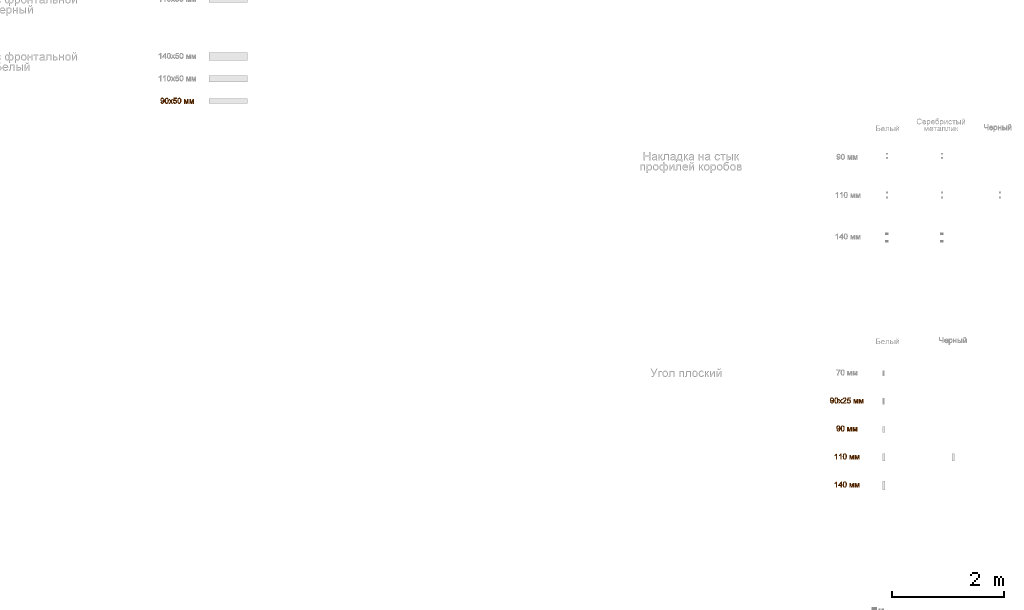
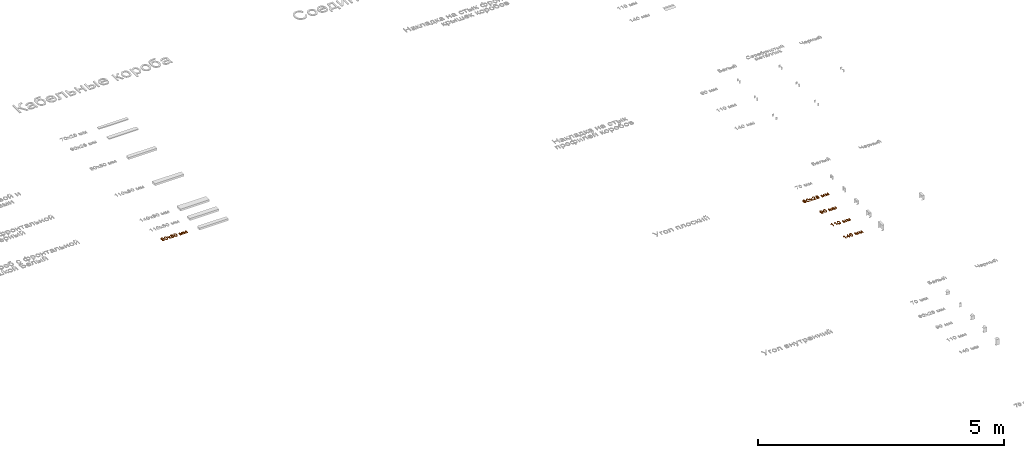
# One storey, part 45 of 87: 5 proxies.
"""IFC2X3 building model written with IfcOpenShell, lengths in millimetres."""

from ifc_helpers import new_model, entity, si_unit, converted_unit, derived_unit, direction, frame, origin, place, context, subcontext, project, spatial, polyline, outline, extrude, element, save


model = new_model("IFC2X3")

# Units and contexts
model_context = context("Model", 3, precision=0.01, world=origin(), true_north=direction((6.12303176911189e-17, 1.0)))
body_context = subcontext(model_context, "Body", "Model", "MODEL_VIEW")
ifc_project = project(units=[si_unit("LENGTHUNIT", "METRE", prefix="MILLI"), si_unit("AREAUNIT", "SQUARE_METRE"), si_unit("VOLUMEUNIT", "CUBIC_METRE"), converted_unit("PLANEANGLEUNIT", "DEGREE", entity("IfcRatioMeasure", 0.0174532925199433), si_unit("PLANEANGLEUNIT", "RADIAN"), dimensions=[0, 0, 0, 0, 0, 0, 0]), si_unit("MASSUNIT", "GRAM", prefix="KILO"), derived_unit("MASSDENSITYUNIT", [(si_unit("MASSUNIT", "GRAM", prefix="KILO"), 1), (si_unit("LENGTHUNIT", "METRE"), -3)]), si_unit("TIMEUNIT", "SECOND"), si_unit("FREQUENCYUNIT", "HERTZ"), si_unit("THERMODYNAMICTEMPERATUREUNIT", "DEGREE_CELSIUS"), derived_unit("THERMALTRANSMITTANCEUNIT", [(si_unit("MASSUNIT", "GRAM", prefix="KILO"), 1), (si_unit("THERMODYNAMICTEMPERATUREUNIT", "KELVIN"), -1), (si_unit("TIMEUNIT", "SECOND"), -3)]), derived_unit("VOLUMETRICFLOWRATEUNIT", [(si_unit("LENGTHUNIT", "METRE"), 3), (si_unit("TIMEUNIT", "SECOND"), -1)]), si_unit("ELECTRICCURRENTUNIT", "AMPERE"), si_unit("ELECTRICVOLTAGEUNIT", "VOLT"), si_unit("POWERUNIT", "WATT"), si_unit("FORCEUNIT", "NEWTON", prefix="KILO"), si_unit("ILLUMINANCEUNIT", "LUX"), si_unit("LUMINOUSFLUXUNIT", "LUMEN"), si_unit("LUMINOUSINTENSITYUNIT", "CANDELA"), derived_unit("USERDEFINED", [(si_unit("MASSUNIT", "GRAM", prefix="KILO"), -1), (si_unit("LENGTHUNIT", "METRE"), -2), (si_unit("TIMEUNIT", "SECOND"), 3), (si_unit("LUMINOUSFLUXUNIT", "LUMEN"), 1)]), derived_unit("LINEARVELOCITYUNIT", [(si_unit("LENGTHUNIT", "METRE"), 1), (si_unit("TIMEUNIT", "SECOND"), -1)]), si_unit("PRESSUREUNIT", "PASCAL"), derived_unit("USERDEFINED", [(si_unit("LENGTHUNIT", "METRE"), -2), (si_unit("MASSUNIT", "GRAM", prefix="KILO"), 1), (si_unit("TIMEUNIT", "SECOND"), -2)])], contexts=[model_context])

# Site, building, storey
site_placement = place(None, origin())
site = spatial("IfcSite", under=ifc_project, at=site_placement, Name="Default", CompositionType="ELEMENT")
building_placement = place(site_placement, origin())
building = spatial("IfcBuilding", under=site, at=building_placement, Name="Наименование здания", CompositionType="ELEMENT")
storey_placement = place(building_placement, origin())
storey = spatial("IfcBuildingStorey", under=building, at=storey_placement, Name="Этаж 01", CompositionType="ELEMENT", Elevation=0.0)

# Proxies
proxy_1_placement = place(storey_placement, origin())
element("IfcBuildingElementProxy", 1, at=proxy_1_placement, inside=storey, Name="Текст модели:100 мм Arial", ObjectType="Текст модели:100 мм Arial", context=body_context, shape_type="SweptSolid", body=[
    extrude(outline(polyline([(5.58296908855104, -31.7859506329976), (17.2387167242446, -31.7859506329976), (26.9216142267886, -28.1739915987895), (34.2072820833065, -21.2554963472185), (38.6713407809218, -11.335887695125), (39.9245387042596, -0.903731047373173), (37.9450282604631, 8.92661895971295), (32.7793953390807, 17.8190246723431), (24.47422582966, 25.4373484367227), (-3.90517077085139, 37.3659164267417), (-32.1440557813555, 40.5619140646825), (-49.7769073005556, 32.5319597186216), (-59.4683269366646, 16.6032994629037), (-60.4499889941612, 4.02951589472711), (-56.401629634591, -7.53444362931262), (-47.8362588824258, -16.8026666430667), (-35.2668867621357, -22.4892406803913), (-21.9841856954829, -23.8222776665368), (-10.3310965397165, -20.283271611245), (-1.40106329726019, -12.8047998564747), (3.71247002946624, -2.31943974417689), (3.73902096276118, 11.9281903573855), (-2.85997612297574, 24.0883984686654), (-0.471643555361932, 23.5260231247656), (13.1334133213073, 18.0099957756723), (22.6158894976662, 11.2224941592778), (27.0079821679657, 2.91452909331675), (26.6924060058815, -7.5239580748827), (20.341007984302, -16.8945474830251), (7.30988926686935, -19.2495752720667), (5.58296908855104, -31.7859506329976)]), holes=[polyline([(-21.7672208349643, 29.1433710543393), (-13.980379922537, 25.5922442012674), (-8.91107638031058, 19.8291378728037), (-7.47464573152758, 4.45415101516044), (-10.9717321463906, -3.43916536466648), (-16.5473789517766, -8.73312215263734), (-23.5758136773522, -11.1761402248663), (-31.4312638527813, -10.5166404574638), (-39.4119601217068, -6.85973803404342), (-44.9206699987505, -0.817312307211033), (-47.5297596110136, 6.83624740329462), (-46.8115950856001, 15.3265517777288), (-43.3781823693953, 22.7799280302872), (-37.7148363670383, 27.7965691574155), (-30.3387761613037, 30.0324064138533), (-21.7672208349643, 29.1433710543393)])]), frame((12120.666226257, -4784.31998894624, 0.0), z_axis=(0.0, 0.0, 1.0), x_axis=(0.258284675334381, -0.966068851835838, 0.0)), (0.0, 0.0, 1.0), 20.0),
    extrude(outline(polyline([(-7.0288431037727, -33.3490673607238), (17.5323805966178, -33.3490673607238), (35.1984171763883, -27.6137612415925), (43.3439841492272, -18.4876517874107), (47.0516941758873, -5.75150665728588), (46.7162020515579, 4.48638208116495), (43.4465778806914, 13.0955287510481), (27.9444305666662, 25.665911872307), (-0.31433837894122, 32.2325535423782), (-24.0296505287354, 32.3678288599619), (-39.4143020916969, 28.0260881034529), (-49.7293680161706, 18.9002174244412), (-54.4436715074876, 4.63998875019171), (-50.867658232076, -14.1301059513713), (-35.4058547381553, -26.7333390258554), (-7.0288431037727, -33.3490673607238)]), holes=[polyline([(-5.77428774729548, -20.8548320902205), (-25.0157644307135, -17.3562860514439), (-36.7257089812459, -11.5717922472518), (-41.0962588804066, -4.7759968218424), (-41.9669219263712, 3.21464792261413), (-39.2244253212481, 11.2791292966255), (-32.865406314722, 17.2229259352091), (-20.969837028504, 20.2947501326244), (-1.61768958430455, 19.7433141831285), (17.8514140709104, 16.2707701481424), (28.7803640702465, 10.7141596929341), (33.5546988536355, 3.61815959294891), (34.5599568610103, -4.47255337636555), (31.9421230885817, -12.1923199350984), (25.8471825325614, -18.1754808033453), (14.0250679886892, -21.402747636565), (-5.77428774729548, -20.8548320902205)])]), frame((12200.6345749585, -4777.21424601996, 0.0), z_axis=(0.0, 0.0, 1.0), x_axis=(0.1018515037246, -0.994799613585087, 0.0)), (0.0, 0.0, 1.0), 20.0),
    extrude(outline(polyline([(-34.530221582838, -38.4265006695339), (-19.422534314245, -38.4265006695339), (-0.341721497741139, -12.0616243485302), (2.47870713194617, -16.1328517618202), (17.8561745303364, -38.4265006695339), (32.9638617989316, -38.4265006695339), (7.40832586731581, -1.34399555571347), (33.944880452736, 35.3461020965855), (18.8371931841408, 35.3461020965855), (4.95577923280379, 16.167187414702), (0.0261604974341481, 9.34910777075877), (-5.66374769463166, 17.6877663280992), (-17.8529044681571, 35.3461020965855), (-32.9605917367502, 35.3461020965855), (-7.6993614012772, -1.34399555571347), (-34.530221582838, -38.4265006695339)])), frame((12273.476231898, -4784.61092229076, 0.0)), (0.0, 0.0, 1.0), 20.0),
    extrude(outline(polyline([(-32.3858783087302, -45.1669477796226), (-32.3858783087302, -57.7239865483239), (33.5385752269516, -57.7239865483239), (32.1896745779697, -49.0664969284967), (24.5622545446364, -35.7369059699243), (8.84143061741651, -21.1810416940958), (-12.8390816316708, -0.260818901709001), (-18.2592096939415, 13.9639515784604), (-13.1456499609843, 25.4786580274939), (0.20846646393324, 30.1752848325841), (14.1266686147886, 25.5890226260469), (19.4119066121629, 12.9093565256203), (31.9689453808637, 14.4789863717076), (28.9247218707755, 26.6252235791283), (22.3426998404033, 35.4973110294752), (12.5662358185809, 40.9235704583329), (-0.0613136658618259, 42.7323236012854), (-12.7808336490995, 40.7212353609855), (-22.5389035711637, 34.6879706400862), (-28.7469122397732, 25.6748617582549), (-30.8162484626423, 14.7242410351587), (-28.5844310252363, 2.81712712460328), (-21.1654774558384, -9.49465698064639), (-3.17604789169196, -26.6992716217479), (11.2694517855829, -38.7780637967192), (16.9348345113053, -45.1669477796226), (-32.3858783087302, -45.1669477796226)])), frame((12346.2571883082, -4765.31343641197, 0.0), z_axis=(0.0, 0.0, -1.0), x_axis=(-1.0, 0.0, 0.0)), (0.0, 0.0, -1.0), 20.0),
    extrude(outline(polyline([(3.81439562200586, -37.2548959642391), (15.7323946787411, -37.2548959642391), (26.1588137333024, -33.0579698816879), (34.2921694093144, -25.0537205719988), (39.3309783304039, -13.6317508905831), (40.2219288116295, 1.43409098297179), (34.3991305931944, 14.6815107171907), (25.5350217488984, 23.1481891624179), (13.9054384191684, 28.2770976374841), (0.912111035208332, 29.4702838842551), (-10.7159258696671, 25.7768606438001), (-19.742707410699, 18.0989984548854), (-24.9322687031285, 7.33886785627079), (-25.5937300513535, -2.21124798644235), (-22.6370240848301, -12.2793380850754), (-47.9924930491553, 0.0204883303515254), (-38.0977082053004, 37.2324069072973), (-50.2330599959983, 40.459241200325), (-62.7370428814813, -6.56524698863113), (-15.5021967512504, -30.4943712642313), (-10.7584434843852, -18.7623737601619), (-14.4216298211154, -10.4922324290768), (-13.6981616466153, 0.72266773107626), (-9.98738154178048, 9.35727561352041), (-4.3255337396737, 14.6878856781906), (11.4370636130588, 15.9400687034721), (19.7481682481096, 12.2772427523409), (25.4355726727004, 6.40632241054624), (28.066514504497, -1.27212018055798), (27.2082313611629, -10.3575128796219), (19.6530635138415, -21.9256319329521), (5.5243109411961, -24.7161898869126), (3.81439562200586, -37.2548959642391)])), frame((12426.2237167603, -4783.09386891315, 0.0), z_axis=(0.0, 0.0, 1.0), x_axis=(0.256974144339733, -0.966418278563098, 0.0)), (0.0, 0.0, 1.0), 20.0),
    extrude(outline(polyline([(-40.58398707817, -38.4502715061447), (33.1886156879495, -38.4502715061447), (33.1886156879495, -25.8932327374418), (-29.0570178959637, -25.8932327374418), (33.1886156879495, -8.6273044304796), (33.1886156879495, 7.85380895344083), (-26.2120637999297, 25.9045521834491), (33.1886156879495, 25.9045521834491), (33.1886156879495, 38.4615909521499), (-40.58398707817, 38.4615909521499), (-40.58398707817, 17.7620973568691), (18.4733358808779, -0.190544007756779), (-40.58398707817, -16.8433356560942), (-40.58398707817, -38.4502715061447)])), frame((12548.9422451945, -4789.84880727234, 0.0), z_axis=(0.0, 0.0, 1.0), x_axis=(0.0, -1.0, 0.0)), (0.0, 0.0, 1.0), 20.0),
    extrude(outline(polyline([(-40.58398707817, -38.4502715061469), (33.1886156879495, -38.4502715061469), (33.1886156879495, -25.8932327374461), (-29.0570178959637, -25.8932327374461), (33.1886156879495, -8.62730443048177), (33.1886156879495, 7.85380895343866), (-26.2120637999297, 25.904552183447), (33.1886156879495, 25.904552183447), (33.1886156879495, 38.4615909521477), (-40.58398707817, 38.4615909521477), (-40.58398707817, 17.762097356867), (18.4733358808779, -0.19054400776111), (-40.58398707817, -16.8433356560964), (-40.58398707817, -38.4502715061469)])), frame((12644.6896658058, -4789.84880727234, 0.0), z_axis=(0.0, 0.0, 1.0), x_axis=(0.0, -1.0, 0.0)), (0.0, 0.0, 1.0), 20.0),
])
proxy_2_placement = place(storey_placement, origin())
element("IfcBuildingElementProxy", 2, at=proxy_2_placement, inside=storey, Name="Текст модели:100 мм Arial", ObjectType="Текст модели:100 мм Arial", context=body_context, shape_type="SweptSolid", body=[
    extrude(outline(polyline([(5.58296908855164, -31.7859506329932), (17.2387167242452, -31.7859506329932), (26.9216142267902, -28.1739915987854), (34.2072820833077, -21.2554963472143), (38.6713407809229, -11.3358876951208), (39.9245387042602, -0.903731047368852), (37.9450282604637, 8.92661895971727), (32.7793953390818, 17.8190246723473), (24.4742258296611, 25.4373484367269), (-3.90517077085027, 37.3659164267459), (-32.1440557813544, 40.5619140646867), (-49.776907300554, 32.5319597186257), (-59.4683269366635, 16.6032994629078), (-60.4499889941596, 4.02951589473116), (-56.4016296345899, -7.53444362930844), (-47.8362588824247, -16.8026666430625), (-35.2668867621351, -22.4892406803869), (-21.9841856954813, -23.8222776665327), (-10.3310965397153, -20.2832716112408), (-1.40106329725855, -12.8047998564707), (3.71247002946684, -2.31943974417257), (3.7390209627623, 11.9281903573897), (-2.85997612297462, 24.0883984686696), (-0.471643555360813, 23.5260231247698), (13.1334133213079, 18.0099957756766), (22.6158894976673, 11.222494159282), (27.0079821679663, 2.91452909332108), (26.6924060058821, -7.52395807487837), (20.3410079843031, -16.8945474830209), (7.30988926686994, -19.2495752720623), (5.58296908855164, -31.7859506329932)]), holes=[polyline([(-21.7672208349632, 29.1433710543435), (-13.9803799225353, 25.5922442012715), (-8.91107638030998, 19.8291378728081), (-7.47464573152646, 4.45415101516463), (-10.9717321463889, -3.43916536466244), (-16.547378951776, -8.73312215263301), (-23.5758136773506, -11.1761402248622), (-31.4312638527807, -10.5166404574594), (-39.4119601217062, -6.8597380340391), (-44.9206699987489, -0.817312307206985), (-47.5297596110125, 6.83624740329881), (-46.8115950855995, 15.3265517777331), (-43.3781823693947, 22.7799280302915), (-37.7148363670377, 27.7965691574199), (-30.338776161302, 30.0324064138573), (-21.7672208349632, 29.1433710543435)])]), frame((12232.8947602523, -5284.31998894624, 0.0), z_axis=(0.0, 0.0, 1.0), x_axis=(0.258284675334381, -0.966068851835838, 0.0)), (0.0, 0.0, 1.0), 20.0),
    extrude(outline(polyline([(-7.02884310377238, -33.349067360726), (17.5323805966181, -33.349067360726), (35.1984171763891, -27.6137612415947), (43.3439841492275, -18.4876517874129), (47.0516941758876, -5.75150665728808), (46.7162020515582, 4.48638208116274), (43.4465778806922, 13.0955287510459), (27.9444305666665, 25.6659118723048), (-0.314338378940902, 32.232553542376), (-24.0296505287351, 32.3678288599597), (-39.4143020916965, 28.0260881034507), (-49.7293680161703, 18.900217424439), (-54.4436715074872, 4.6399887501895), (-50.8676582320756, -14.1301059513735), (-35.4058547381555, -26.7333390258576), (-7.02884310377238, -33.349067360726)]), holes=[polyline([(-5.7742877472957, -20.8548320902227), (-25.0157644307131, -17.3562860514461), (-36.725708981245, -11.5717922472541), (-41.0962588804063, -4.77599682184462), (-41.9669219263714, 3.21464792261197), (-39.2244253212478, 11.2791292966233), (-32.8654063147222, 17.222925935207), (-20.9698370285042, 20.2947501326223), (-1.61768958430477, 19.7433141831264), (17.8514140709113, 16.2707701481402), (28.7803640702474, 10.7141596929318), (33.5546988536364, 3.61815959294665), (34.5599568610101, -4.4725533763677), (31.9421230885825, -12.1923199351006), (25.8471825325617, -18.1754808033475), (14.0250679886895, -21.4027476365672), (-5.7742877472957, -20.8548320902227)])]), frame((12312.8631089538, -5277.21424601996, 0.0), z_axis=(0.0, 0.0, 1.0), x_axis=(0.1018515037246, -0.994799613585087, 0.0)), (0.0, 0.0, 1.0), 20.0),
    extrude(outline(polyline([(-40.5839870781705, -38.4502715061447), (33.1886156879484, -38.4502715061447), (33.1886156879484, -25.893232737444), (-29.0570178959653, -25.893232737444), (33.1886156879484, -8.6273044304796), (33.1886156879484, 7.85380895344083), (-26.2120637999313, 25.9045521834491), (33.1886156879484, 25.9045521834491), (33.1886156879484, 38.4615909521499), (-40.5839870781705, 38.4615909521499), (-40.5839870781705, 17.7620973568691), (18.4733358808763, -0.190544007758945), (-40.5839870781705, -16.8433356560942), (-40.5839870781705, -38.4502715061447)])), frame((12436.7137111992, -5289.84880727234, 0.0), z_axis=(0.0, 0.0, 1.0), x_axis=(0.0, -1.0, 0.0)), (0.0, 0.0, 1.0), 20.0),
    extrude(outline(polyline([(-40.5839870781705, -38.4502715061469), (33.1886156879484, -38.4502715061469), (33.1886156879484, -25.8932327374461), (-29.0570178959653, -25.8932327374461), (33.1886156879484, -8.62730443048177), (33.1886156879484, 7.85380895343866), (-26.2120637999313, 25.9045521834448), (33.1886156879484, 25.9045521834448), (33.1886156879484, 38.4615909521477), (-40.5839870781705, 38.4615909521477), (-40.5839870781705, 17.762097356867), (18.4733358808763, -0.19054400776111), (-40.5839870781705, -16.8433356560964), (-40.5839870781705, -38.4502715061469)])), frame((12532.4611318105, -5289.84880727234, 0.0), z_axis=(0.0, 0.0, 1.0), x_axis=(0.0, -1.0, 0.0)), (0.0, 0.0, 1.0), 20.0),
])
proxy_3_placement = place(storey_placement, origin())
element("IfcBuildingElementProxy", 3, at=proxy_3_placement, inside=storey, Name="Текст модели:100 мм Arial", ObjectType="Текст модели:100 мм Arial", context=body_context, shape_type="SweptSolid", body=[
    extrude(outline(polyline([(-63.8793021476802, -16.918484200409), (36.5770080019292, -16.918484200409), (36.5770080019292, -8.825080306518), (23.2106288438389, 2.34626961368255), (11.4629304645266, 20.7526321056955), (-0.407395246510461, 20.7526321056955), (5.93243780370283, 7.53340574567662), (14.4059864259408, -4.36144543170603), (-63.8793021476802, -4.36144543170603), (-63.8793021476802, -16.918484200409)])), frame((12193.7741888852, -5759.15812081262, 0.0), z_axis=(0.0, 0.0, 1.0), x_axis=(0.0, 1.0, 0.0)), (0.0, 0.0, 1.0), 20.0),
    extrude(outline(polyline([(-63.8793021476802, -16.918484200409), (36.5770080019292, -16.918484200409), (36.5770080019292, -8.825080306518), (23.2106288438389, 2.34626961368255), (11.4629304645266, 20.7526321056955), (-0.407395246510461, 20.7526321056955), (5.93243780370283, 7.53340574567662), (14.4059864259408, -4.36144543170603), (-63.8793021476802, -4.36144543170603), (-63.8793021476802, -16.918484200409)])), frame((12270.6860513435, -5759.15812081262, 0.0), z_axis=(0.0, 0.0, 1.0), x_axis=(0.0, 1.0, 0.0)), (0.0, 0.0, 1.0), 20.0),
    extrude(outline(polyline([(-7.02884310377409, -33.3490673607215), (17.5323805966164, -33.3490673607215), (35.1984171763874, -27.6137612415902), (43.3439841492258, -18.4876517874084), (47.0516941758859, -5.75150665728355), (46.7162020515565, 4.48638208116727), (43.4465778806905, 13.0955287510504), (27.9444305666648, 25.6659118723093), (-0.314338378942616, 32.2325535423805), (-24.0296505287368, 32.3678288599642), (-39.4143020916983, 28.0260881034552), (-49.729368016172, 18.9002174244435), (-54.443671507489, 4.63998875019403), (-50.8676582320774, -14.130105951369), (-35.4058547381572, -26.733339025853), (-7.02884310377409, -33.3490673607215)]), holes=[polyline([(-5.77428774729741, -20.8548320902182), (-25.0157644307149, -17.3562860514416), (-36.7257089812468, -11.5717922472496), (-41.096258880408, -4.77599682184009), (-41.9669219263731, 3.2146479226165), (-39.2244253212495, 11.2791292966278), (-32.8654063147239, 17.2229259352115), (-20.969837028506, 20.2947501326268), (-1.61768958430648, 19.7433141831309), (17.8514140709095, 16.2707701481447), (28.7803640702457, 10.7141596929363), (33.5546988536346, 3.61815959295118), (34.5599568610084, -4.47255337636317), (31.9421230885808, -12.1923199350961), (25.84718253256, -18.1754808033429), (14.0250679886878, -21.4027476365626), (-5.77428774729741, -20.8548320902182)])]), frame((12351.319040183, -5777.21424601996, 0.0), z_axis=(0.0, 0.0, 1.0), x_axis=(0.1018515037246, -0.994799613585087, 0.0)), (0.0, 0.0, 1.0), 20.0),
    extrude(outline(polyline([(-40.5839870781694, -38.4502715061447), (33.1886156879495, -38.4502715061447), (33.1886156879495, -25.893232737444), (-29.0570178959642, -25.893232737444), (33.1886156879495, -8.6273044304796), (33.1886156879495, 7.85380895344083), (-26.2120637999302, 25.9045521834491), (33.1886156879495, 25.9045521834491), (33.1886156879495, 38.4615909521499), (-40.5839870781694, 38.4615909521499), (-40.5839870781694, 17.7620973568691), (18.4733358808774, -0.190544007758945), (-40.5839870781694, -16.8433356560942), (-40.5839870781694, -38.4502715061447)])), frame((12475.1696424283, -5789.84880727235, 0.0), z_axis=(0.0, 0.0, 1.0), x_axis=(0.0, -1.0, 0.0)), (0.0, 0.0, 1.0), 20.0),
    extrude(outline(polyline([(-40.5839870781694, -38.4502715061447), (33.1886156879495, -38.4502715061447), (33.1886156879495, -25.893232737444), (-29.0570178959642, -25.893232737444), (33.1886156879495, -8.6273044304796), (33.1886156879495, 7.85380895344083), (-26.2120637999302, 25.9045521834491), (33.1886156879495, 25.9045521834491), (33.1886156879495, 38.4615909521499), (-40.5839870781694, 38.4615909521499), (-40.5839870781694, 17.7620973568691), (18.4733358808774, -0.190544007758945), (-40.5839870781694, -16.8433356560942), (-40.5839870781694, -38.4502715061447)])), frame((12570.9170630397, -5789.84880727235, 0.0), z_axis=(0.0, 0.0, 1.0), x_axis=(0.0, -1.0, 0.0)), (0.0, 0.0, 1.0), 20.0),
])
proxy_4_placement = place(storey_placement, origin())
element("IfcBuildingElementProxy", 4, at=proxy_4_placement, inside=storey, Name="Текст модели:100 мм Arial", ObjectType="Текст модели:100 мм Arial", context=body_context, shape_type="SweptSolid", body=[
    extrude(outline(polyline([(-63.8793021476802, -16.918484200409), (36.5770080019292, -16.918484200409), (36.5770080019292, -8.825080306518), (23.2106288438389, 2.34626961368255), (11.4629304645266, 20.7526321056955), (-0.407395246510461, 20.7526321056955), (5.93243780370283, 7.53340574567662), (14.4059864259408, -4.36144543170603), (-63.8793021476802, -4.36144543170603), (-63.8793021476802, -16.918484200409)])), frame((12193.7741888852, -6259.15812081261, 0.0), z_axis=(0.0, 0.0, 1.0), x_axis=(0.0, 1.0, 0.0)), (0.0, 0.0, 1.0), 20.0),
    extrude(outline(polyline([(-1.14154897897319, -36.3868737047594), (11.4154897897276, -36.3868737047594), (11.4154897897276, -12.8424260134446), (23.9725285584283, -12.8424260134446), (23.9725285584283, -0.285387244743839), (11.4154897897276, -0.285387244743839), (11.4154897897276, 62.4998065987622), (1.99771071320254, 62.4998065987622), (-46.6608145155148, -0.285387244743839), (-46.6608145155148, -12.8424260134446), (-1.14154897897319, -12.8424260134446), (-1.14154897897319, -36.3868737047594)]), holes=[polyline([(-1.14154897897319, -0.285387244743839), (-31.20977071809, -0.285387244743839), (-1.14154897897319, 38.5139005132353), (-1.14154897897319, -0.285387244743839)])]), frame((12282.4675651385, -6286.65054925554, 0.0)), (0.0, 0.0, 1.0), 20.0),
    extrude(outline(polyline([(-7.02884310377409, -33.3490673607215), (17.5323805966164, -33.3490673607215), (35.1984171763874, -27.6137612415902), (43.3439841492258, -18.4876517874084), (47.0516941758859, -5.75150665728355), (46.7162020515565, 4.48638208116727), (43.4465778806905, 13.0955287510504), (27.9444305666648, 25.6659118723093), (-0.314338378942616, 32.2325535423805), (-24.0296505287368, 32.3678288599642), (-39.4143020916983, 28.0260881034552), (-49.729368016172, 18.9002174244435), (-54.443671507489, 4.63998875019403), (-50.8676582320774, -14.130105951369), (-35.4058547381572, -26.733339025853), (-7.02884310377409, -33.3490673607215)]), holes=[polyline([(-5.77428774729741, -20.8548320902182), (-25.0157644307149, -17.3562860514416), (-36.7257089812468, -11.5717922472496), (-41.096258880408, -4.77599682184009), (-41.9669219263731, 3.2146479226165), (-39.2244253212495, 11.2791292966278), (-32.8654063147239, 17.2229259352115), (-20.969837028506, 20.2947501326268), (-1.61768958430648, 19.7433141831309), (17.8514140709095, 16.2707701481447), (28.7803640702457, 10.7141596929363), (33.5546988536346, 3.61815959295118), (34.5599568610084, -4.47255337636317), (31.9421230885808, -12.1923199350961), (25.84718253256, -18.1754808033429), (14.0250679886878, -21.4027476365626), (-5.77428774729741, -20.8548320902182)])]), frame((12351.319040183, -6277.21424601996, 0.0), z_axis=(0.0, 0.0, 1.0), x_axis=(0.1018515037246, -0.994799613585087, 0.0)), (0.0, 0.0, 1.0), 20.0),
    extrude(outline(polyline([(-40.5839870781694, -38.4502715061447), (33.1886156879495, -38.4502715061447), (33.1886156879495, -25.893232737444), (-29.0570178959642, -25.893232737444), (33.1886156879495, -8.6273044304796), (33.1886156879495, 7.85380895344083), (-26.2120637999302, 25.9045521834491), (33.1886156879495, 25.9045521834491), (33.1886156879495, 38.4615909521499), (-40.5839870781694, 38.4615909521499), (-40.5839870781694, 17.7620973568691), (18.4733358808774, -0.190544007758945), (-40.5839870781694, -16.8433356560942), (-40.5839870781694, -38.4502715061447)])), frame((12475.1696424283, -6289.84880727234, 0.0), z_axis=(0.0, 0.0, 1.0), x_axis=(0.0, -1.0, 0.0)), (0.0, 0.0, 1.0), 20.0),
    extrude(outline(polyline([(-40.5839870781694, -38.4502715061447), (33.1886156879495, -38.4502715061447), (33.1886156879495, -25.893232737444), (-29.0570178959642, -25.893232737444), (33.1886156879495, -8.6273044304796), (33.1886156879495, 7.85380895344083), (-26.2120637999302, 25.9045521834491), (33.1886156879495, 25.9045521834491), (33.1886156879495, 38.4615909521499), (-40.5839870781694, 38.4615909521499), (-40.5839870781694, 17.7620973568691), (18.4733358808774, -0.190544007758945), (-40.5839870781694, -16.8433356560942), (-40.5839870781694, -38.4502715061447)])), frame((12570.9170630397, -6289.84880727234, 0.0), z_axis=(0.0, 0.0, 1.0), x_axis=(0.0, -1.0, 0.0)), (0.0, 0.0, 1.0), 20.0),
])
proxy_5_placement = place(storey_placement, origin())
element("IfcBuildingElementProxy", 5, at=proxy_5_placement, inside=storey, Name="Текст модели:100 мм Arial", ObjectType="Текст модели:100 мм Arial", context=body_context, shape_type="SweptSolid", body=[
    extrude(outline(polyline([(5.58296908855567, -31.7859506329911), (17.2387167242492, -31.7859506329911), (26.9216142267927, -28.1739915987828), (34.2072820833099, -21.2554963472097), (38.6713407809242, -11.3358876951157), (39.924538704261, -0.903731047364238), (37.9450282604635, 8.92661895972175), (32.7793953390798, 17.8190246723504), (24.4742258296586, 25.43734843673), (-3.90517077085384, 37.3659164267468), (-32.1440557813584, 40.5619140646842), (-49.7769073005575, 32.5319597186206), (-59.4683269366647, 16.6032994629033), (-60.4499889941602, 4.02951589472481), (-56.4016296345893, -7.53444362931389), (-47.8362588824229, -16.8026666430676), (-35.2668867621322, -22.4892406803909), (-21.9841856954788, -23.8222776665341), (-10.3310965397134, -20.2832716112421), (-1.40106329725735, -12.8047998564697), (3.71247002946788, -2.31943974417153), (3.73902096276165, 11.9281903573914), (-2.85997612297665, 24.0883984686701), (-0.47164355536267, 23.5260231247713), (13.1334133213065, 18.009995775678), (22.6158894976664, 11.2224941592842), (27.0079821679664, 2.9145290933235), (26.6924060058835, -7.52395807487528), (20.3410079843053, -16.8945474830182), (7.30988926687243, -19.2495752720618), (5.58296908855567, -31.7859506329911)]), holes=[polyline([(-21.7672208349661, 29.1433710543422), (-13.980379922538, 25.592244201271), (-8.91107638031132, 19.8291378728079), (-7.47464573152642, 4.45415101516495), (-10.9717321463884, -3.43916536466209), (-16.5473789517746, -8.7331221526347), (-23.5758136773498, -11.1761402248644), (-31.431263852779, -10.5166404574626), (-39.411960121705, -6.85973803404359), (-44.920669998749, -0.817312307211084), (-47.5297596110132, 6.83624740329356), (-46.8115950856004, 15.3265517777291), (-43.3781823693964, 22.7799280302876), (-37.71483636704, 27.7965691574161), (-30.3387761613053, 30.0324064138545), (-21.7672208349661, 29.1433710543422)])]), frame((169.068549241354, 565.454857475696, 0.0), z_axis=(0.0, 0.0, 1.0), x_axis=(0.258284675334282, -0.966068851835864, 0.0)), (0.0, 0.0, 1.0), 20.0),
    extrude(outline(polyline([(-7.02884310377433, -33.3490673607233), (17.5323805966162, -33.3490673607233), (35.1984171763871, -27.6137612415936), (43.343984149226, -18.4876517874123), (47.0516941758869, -5.75150665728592), (46.7162020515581, 4.48638208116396), (43.4465778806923, 13.0955287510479), (27.9444305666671, 25.6659118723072), (-0.314338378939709, 32.23255354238), (-24.0296505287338, 32.3678288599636), (-39.4143020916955, 28.026088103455), (-49.72936801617, 18.9002174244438), (-54.4436715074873, 4.63998875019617), (-50.8676582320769, -14.1301059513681), (-35.4058547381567, -26.7333390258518), (-7.02884310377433, -33.3490673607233)]), holes=[polyline([(-5.77428774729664, -20.8548320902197), (-25.0157644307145, -17.3562860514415), (-36.7257089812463, -11.5717922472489), (-41.0962588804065, -4.77599682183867), (-41.9669219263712, 3.2146479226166), (-39.2244253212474, 11.2791292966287), (-32.8654063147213, 17.2229259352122), (-20.9698370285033, 20.2947501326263), (-1.61768958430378, 19.74331418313), (17.8514140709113, 16.2707701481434), (28.780364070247, 10.7141596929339), (33.5546988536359, 3.61815959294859), (34.5599568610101, -4.47255337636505), (31.9421230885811, -12.1923199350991), (25.8471825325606, -18.1754808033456), (14.0250679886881, -21.4027476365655), (-5.77428774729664, -20.8548320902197)])]), frame((249.036897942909, 572.560600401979, 0.0), z_axis=(0.0, 0.0, 1.0), x_axis=(0.101851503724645, -0.994799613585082, 0.0)), (0.0, 0.0, 1.0), 20.0),
    extrude(outline(polyline([(-34.5302215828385, -38.4265006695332), (-19.4225343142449, -38.4265006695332), (-0.341721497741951, -12.0616243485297), (2.47870713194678, -16.1328517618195), (17.8561745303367, -38.4265006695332), (32.9638617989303, -38.4265006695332), (7.40832586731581, -1.34399555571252), (33.9448804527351, 35.3461020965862), (18.8371931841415, 35.3461020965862), (4.95577923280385, 16.1671874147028), (0.0261604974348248, 9.34910777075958), (-5.66374769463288, 17.6877663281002), (-17.8529044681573, 35.3461020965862), (-32.9605917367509, 35.3461020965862), (-7.69936140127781, -1.34399555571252), (-34.5302215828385, -38.4265006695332)])), frame((321.878554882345, 565.163924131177, 0.0)), (0.0, 0.0, 1.0), 20.0),
    extrude(outline(polyline([(3.81439562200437, -37.2548959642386), (15.7323946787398, -37.2548959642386), (26.1588137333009, -33.0579698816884), (34.2921694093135, -25.0537205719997), (39.3309783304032, -13.6317508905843), (40.2219288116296, 1.43409098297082), (34.399130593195, 14.6815107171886), (25.5350217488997, 23.1481891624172), (13.9054384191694, 28.2770976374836), (0.912111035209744, 29.4702838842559), (-10.7159258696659, 25.7768606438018), (-19.7427074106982, 18.0989984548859), (-24.9322687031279, 7.33886785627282), (-25.5937300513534, -2.21124798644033), (-22.6370240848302, -12.2793380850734), (-47.9924930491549, 0.0204883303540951), (-38.0977082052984, 37.2324069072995), (-50.2330599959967, 40.4592412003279), (-62.7370428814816, -6.5652469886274), (-15.5021967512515, -30.4943712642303), (-10.7584434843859, -18.7623737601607), (-14.4216298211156, -10.4922324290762), (-13.6981616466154, 0.722667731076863), (-9.98738154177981, 9.35727561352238), (-4.32553373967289, 14.6878856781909), (11.4370636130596, 15.9400687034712), (19.7481682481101, 12.27724275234), (25.4355726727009, 6.40632241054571), (28.0665145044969, -1.27212018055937), (27.2082313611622, -10.3575128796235), (19.6530635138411, -21.9256319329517), (5.52431094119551, -24.7161898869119), (3.81439562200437, -37.2548959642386)])), frame((397.714177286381, 566.680977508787, 0.0), z_axis=(0.0, 0.0, 1.0), x_axis=(0.256974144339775, -0.966418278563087, 0.0)), (0.0, 0.0, 1.0), 20.0),
    extrude(outline(polyline([(-7.02884310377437, -33.3490673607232), (17.5323805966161, -33.3490673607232), (35.1984171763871, -27.6137612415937), (43.3439841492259, -18.4876517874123), (47.0516941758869, -5.7515066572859), (46.7162020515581, 4.48638208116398), (43.4465778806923, 13.0955287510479), (27.9444305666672, 25.6659118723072), (-0.314338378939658, 32.2325535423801), (-24.0296505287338, 32.3678288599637), (-39.4143020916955, 28.0260881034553), (-49.7293680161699, 18.9002174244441), (-54.4436715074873, 4.63998875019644), (-50.8676582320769, -14.1301059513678), (-35.4058547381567, -26.7333390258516), (-7.02884310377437, -33.3490673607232)]), holes=[polyline([(-5.77428774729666, -20.8548320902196), (-25.0157644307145, -17.3562860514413), (-36.7257089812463, -11.5717922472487), (-41.0962588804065, -4.77599682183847), (-41.9669219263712, 3.2146479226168), (-39.2244253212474, 11.279129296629), (-32.8654063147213, 17.2229259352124), (-20.9698370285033, 20.2947501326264), (-1.61768958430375, 19.7433141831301), (17.8514140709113, 16.2707701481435), (28.780364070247, 10.7141596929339), (33.5546988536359, 3.61815959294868), (34.5599568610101, -4.47255337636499), (31.9421230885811, -12.1923199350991), (25.8471825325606, -18.1754808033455), (14.0250679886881, -21.4027476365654), (-5.77428774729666, -20.8548320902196)])]), frame((473.493965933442, 572.560600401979, 0.0), z_axis=(0.0, 0.0, 1.0), x_axis=(0.101851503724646, -0.994799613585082, 0.0)), (0.0, 0.0, 1.0), 20.0),
    extrude(outline(polyline([(-40.5839870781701, -38.4502715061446), (33.1886156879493, -38.4502715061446), (33.1886156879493, -25.8932327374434), (-29.0570178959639, -25.8932327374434), (33.1886156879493, -8.62730443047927), (33.1886156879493, 7.85380895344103), (-26.2120637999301, 25.9045521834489), (33.1886156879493, 25.9045521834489), (33.1886156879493, 38.4615909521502), (-40.5839870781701, 38.4615909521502), (-40.5839870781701, 17.7620973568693), (18.4733358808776, -0.1905440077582), (-40.5839870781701, -16.8433356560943), (-40.5839870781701, -38.4502715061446)])), frame((597.344568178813, 559.926039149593, 0.0), z_axis=(0.0, 0.0, 1.0), x_axis=(0.0, -1.0, 0.0)), (0.0, 0.0, 1.0), 20.0),
    extrude(outline(polyline([(-40.5839870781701, -38.4502715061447), (33.1886156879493, -38.4502715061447), (33.1886156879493, -25.8932327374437), (-29.0570178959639, -25.8932327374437), (33.1886156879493, -8.62730443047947), (33.1886156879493, 7.85380895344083), (-26.2120637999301, 25.9045521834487), (33.1886156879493, 25.9045521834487), (33.1886156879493, 38.4615909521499), (-40.5839870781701, 38.4615909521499), (-40.5839870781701, 17.7620973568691), (18.4733358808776, -0.190544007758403), (-40.5839870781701, -16.8433356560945), (-40.5839870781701, -38.4502715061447)])), frame((693.09198879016, 559.926039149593, 0.0), z_axis=(0.0, 0.0, 1.0), x_axis=(0.0, -1.0, 0.0)), (0.0, 0.0, 1.0), 20.0),
])

save(model, "model.ifc")
